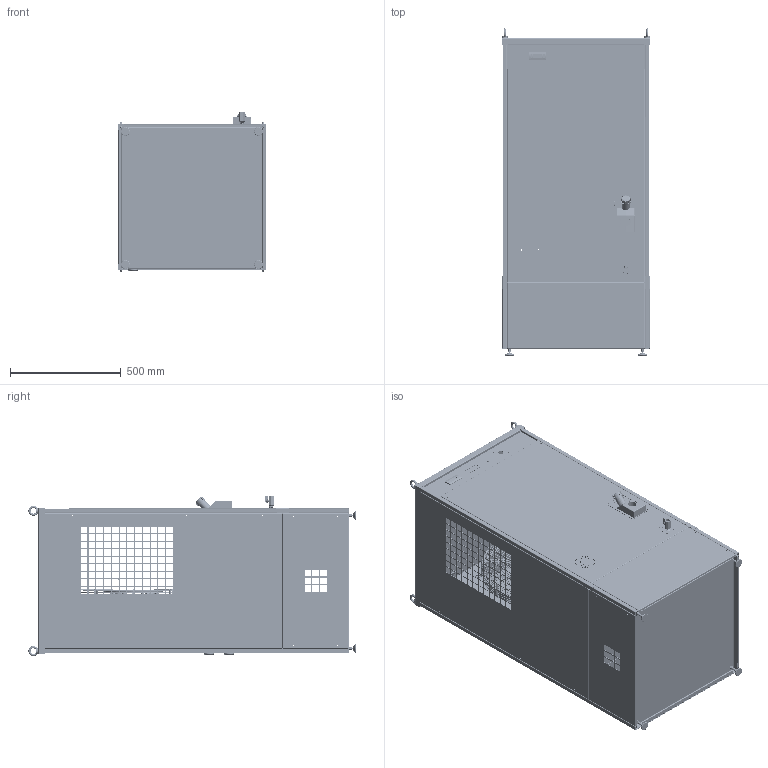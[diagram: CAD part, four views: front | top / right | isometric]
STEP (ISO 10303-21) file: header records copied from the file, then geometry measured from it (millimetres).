
FILE_DESCRIPTION (( 'STEP AP203' ), '1' );
FILE_NAME ('ECP3H-D_REV_00.STEP', '2026-07-23T10:03:48', ( '' ), ( '' ), 'SwSTEP 2.0', 'SolidWorks 2023', '' );
FILE_SCHEMA (( 'CONFIG_CONTROL_DESIGN' ));
Length unit declared in the file: millimetre
Products named in the file (51): COPIA_CR-3C-00045_000; COPIA_VR-3C-00033_001; COPIA_VR-3C-00015_003A; COPIA_VE-W3-00004; COPIA_CR-3C-00019_001; COPIA_ZF-BU-00027_000; COPIA_CR-3C-00046_000; COPIA_SE-RP-00044_002; COPIA_VR-3C-00023_001; COPIA_VR-3C-00007_003; COPIA_VR-3C-00004_006; COPIA_84IM6XXXXXXTREF00_1; COPIA_43-MI-E0006_43-MI-E0006_NO_BASE_E_PANN_FRONT; COPIA_50-3C-00003; COPIA_GO-LF-00001; COPIA_FILETTO_RUBINETTO_VA-A5-00001; COPIA_VR-3C-00015_003D; COPIA_VR-3C-00015_003B; COPIA_ZP-TA-00006_1; COPIA_Rivelox M5 Reduced Head Hexagonal Shank___; COPIA_VR-3C-00015_003F; COPIA_VR-3C-00002_000; COPIA_CR-3C-00047_003; COPIA_Dado M10; COPIA_TE-EL-00007 - EW_971_230V; COPIA_CR-1C-00033_000; COPIA_84fm5x15xxxpaff00_1; COPIA_ST-AT-00029_002; COPIA_VR-3C-00005_001; COPIA_50-3C-00016_50-3C-00016_NO_BASE_E_PANN_FRONT; COPIA_VR-3C-00022_000; COPIA_CO-CF-00077_003; COPIA_VR-3C-00008_004; COPIA_AN-PI-00027_000; COPIA_VR-3C-00015_003C; ECP3H-D_REV_00; COPIA_VA-A5-00001; COPIA_VR-3C-00003_000; COPIA_VR-3C-00015_003E; COPIA_VR-3C-00025_003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
Assembly tree (113 placements, depth 5):
  ECP3H-D_REV_00
    COPIA_43-MI-E0006_43-MI-E0006_NO_BASE_E_PANN_FRONT
      COPIA_50-3C-00016_50-3C-00016_NO_BASE_E_PANN_FRONT
        COPIA_CR-3C-00019_001
        COPIA_VR-3C-00005_001
        COPIA_VR-3C-00002_000
        COPIA_VR-3C-00003_000
        COPIA_VR-3C-00004_006
          COPIA_VR-3C-00004_006
          COPIA_RIVELOX M8  x2
          COPIA_Rivelox M5 Reduced Head Hexagonal Shank___  x6
        COPIA_VR-3C-00007_003
        COPIA_VR-3C-00008_004
        COPIA_CR-3C-00047_003
          COPIA_CR-3C-00047_003
          COPIA_84fm5x15xxxpaff00_1
          COPIA_84IM6XXXXXXTREF00_1  x9
        COPIA_VR-3C-00034_003
          COPIA_VR-3C-00033_001
          COPIA_Rivelox M5 Reduced Head Hexagonal Shank___  x8
        COPIA_CR-1C-00033_000
        COPIA_ZF-BU-00027_000  x4
      COPIA_CO-CF-00077_003
      COPIA_VE-W3-00004
      COPIA_GO-LF-00001  x4
    COPIA_50-3C-00003
      COPIA_VR-3C-00015_003
        COPIA_VR-3C-00015_003A
          COPIA_VR-3C-00015_003A
          COPIA_Dado M10  x4
        COPIA_VR-3C-00015_003D
          COPIA_VR-3C-00015_003D
          COPIA_RIVELOX M5  x4
        COPIA_VR-3C-00015_003E
          COPIA_VR-3C-00015_003E
          COPIA_RIVELOX M5  x4
        COPIA_VR-3C-00015_003B
          COPIA_VR-3C-00015_003B
          COPIA_RIVELOX M5  x15
        COPIA_VR-3C-00015_003F  x2
        COPIA_VR-3C-00015_003C
          COPIA_VR-3C-00015_003C
          COPIA_RIVELOX M5  x4
      COPIA_VR-3C-00022_000
      COPIA_VR-3C-00023_001  x2
      COPIA_CR-3C-00045_000
      COPIA_CR-3C-00046_000
      COPIA_VR-3C-00025_003
      COPIA_AN-PI-00027_000  x4
    COPIA_ST-AT-00029_002  x2
    COPIA_TE-EL-00007 - EW_971_230V
    COPIA_SE-RP-00044_002
    COPIA_FILETTO_RUBINETTO_VA-A5-00001
    COPIA_ZP-TA-00006_1
    COPIA_VA-A5-00001
Bounding box: 671 x 1475.2 x 722 mm (x, y, z)
Volume: 25270698 mm3; surface area: 20040052.5 mm2
Topology: 212 solids, 218 shells, 18362 faces, 47672 edges, 29316 vertices
Faces by surface type: cylinder 6197, plane 6192, bspline 3268, torus 1711, cone 771, sphere 223
Entity records: 655435 total; most frequent: CARTESIAN_POINT 261449, ORIENTED_EDGE 85405, DIRECTION 73487, EDGE_CURVE 42704, AXIS2_PLACEMENT_3D 27609, VERTEX_POINT 26685, EDGE_LOOP 19340, LINE 18269
